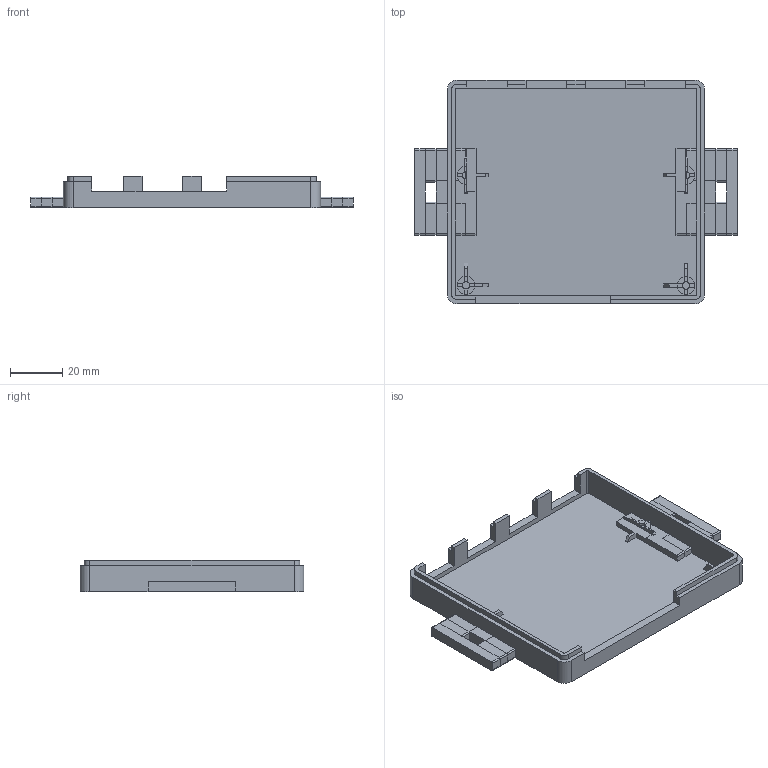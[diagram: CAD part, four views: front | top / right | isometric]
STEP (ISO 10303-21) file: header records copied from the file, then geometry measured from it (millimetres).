
FILE_DESCRIPTION(('Designed by EasyEDA Pro'),'2;1');
FILE_NAME('Open CASCADE Shape Model','2023-03-24T09:59:44',('Author'),( 'Open CASCADE'),'Open CASCADE STEP processor 7.7','Open CASCADE 7.7' ,'Unknown');
FILE_SCHEMA(('AUTOMOTIVE_DESIGN { 1 0 10303 214 1 1 1 1 }'));
Length unit declared in the file: millimetre
Products named in the file (1): SOLID
Bounding box: 122.94 x 85.32 x 12 mm (x, y, z)
Volume: 25293.1 mm3; surface area: 25506.3 mm2
Topology: 1 solids, 1 shells, 335 faces, 921 edges, 586 vertices
Faces by surface type: plane 266, cylinder 69
Full cylindrical faces by diameter (mm): 2.8 x2
Entity records: 22294 total; most frequent: CARTESIAN_POINT 4687, DIRECTION 3075, LINE 1880, VECTOR 1880, ORIENTED_EDGE 1842, PCURVE 1842, DEFINITIONAL_REPRESENTATION 1842, EDGE_CURVE 921
